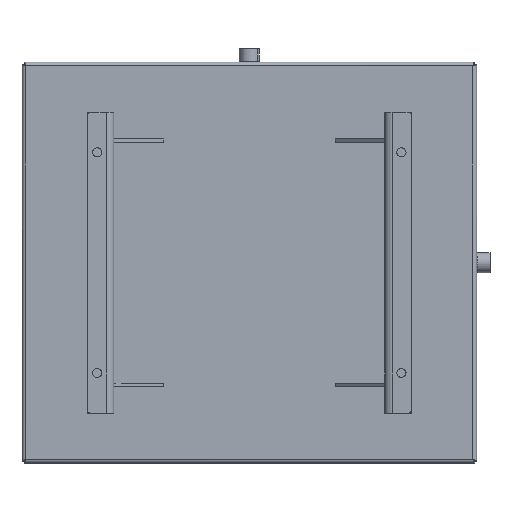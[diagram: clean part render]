
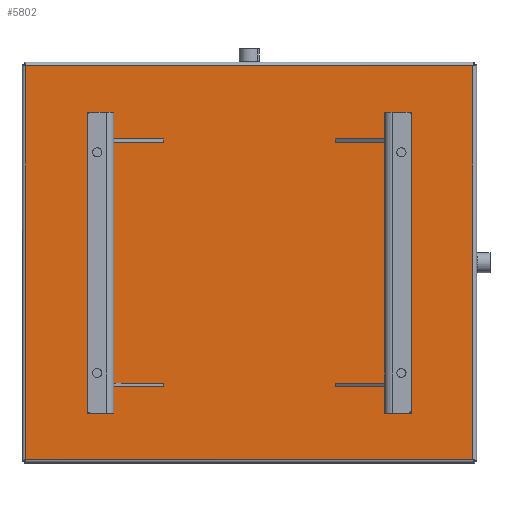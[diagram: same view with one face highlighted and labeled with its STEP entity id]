
A CAD part, front view. The second image highlights one B-rep face of the part: STEP entity #5802.
In plain terms, the highlighted planar face has unit normal (0, -1, 0).
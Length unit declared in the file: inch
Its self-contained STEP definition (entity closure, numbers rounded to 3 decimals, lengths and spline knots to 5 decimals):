
#215 = DIRECTION ( 'NONE',  ( 1., 0., 0. ) ) ;
#435 = CARTESIAN_POINT ( 'NONE',  ( -23.06171, -1.34419, -16.55906 ) ) ;
#709 = ORIENTED_EDGE ( 'NONE', *, *, #4944, .T. ) ;
#902 = VECTOR ( 'NONE', #5098, 39.37008 ) ;
#987 = CARTESIAN_POINT ( 'NONE',  ( 10.50674, -1.34419, 12.88774 ) ) ;
#1306 = FACE_OUTER_BOUND ( 'NONE', #4461, .T. ) ;
#1371 = LINE ( 'NONE', #2903, #3582 ) ;
#1592 = CARTESIAN_POINT ( 'NONE',  ( 10.50674, -1.34419, -16.55906 ) ) ;
#1683 = DIRECTION ( 'NONE',  ( -1., 0., 0. ) ) ;
#1698 = LINE ( 'NONE', #435, #4008 ) ;
#1699 = CARTESIAN_POINT ( 'NONE',  ( 10.62838, -1.34419, 12.88774 ) ) ;
#1746 = DIRECTION ( 'NONE',  ( 0., 0., -1. ) ) ;
#1752 = DIRECTION ( 'NONE',  ( 0., -1., 0. ) ) ;
#1793 = PLANE ( 'NONE',  #2978 ) ;
#1843 = CARTESIAN_POINT ( 'NONE',  ( -23.21666, -1.34419, -16.83566 ) ) ;
#1864 = CARTESIAN_POINT ( 'NONE',  ( -22.94006, -1.34419, -16.55906 ) ) ;
#2025 = LINE ( 'NONE', #5261, #902 ) ;
#2875 = ORIENTED_EDGE ( 'NONE', *, *, #5500, .T. ) ;
#2898 = DIRECTION ( 'NONE',  ( 0., 0., 1. ) ) ;
#2903 = CARTESIAN_POINT ( 'NONE',  ( 10.50674, -1.34419, -16.6807 ) ) ;
#2978 = AXIS2_PLACEMENT_3D ( 'NONE', #1843, #1752, #1746 ) ;
#3582 = VECTOR ( 'NONE', #2898, 39.37008 ) ;
#3997 = ORIENTED_EDGE ( 'NONE', *, *, #5686, .T. ) ;
#4008 = VECTOR ( 'NONE', #215, 39.37008 ) ;
#4174 = VERTEX_POINT ( 'NONE', #987 ) ;
#4461 = EDGE_LOOP ( 'NONE', ( #3997, #709, #2875, #5188 ) ) ;
#4944 = EDGE_CURVE ( 'NONE', #4174, #5496, #5783, .T. ) ;
#5098 = DIRECTION ( 'NONE',  ( 0., 0., -1. ) ) ;
#5188 = ORIENTED_EDGE ( 'NONE', *, *, #5446, .T. ) ;
#5261 = CARTESIAN_POINT ( 'NONE',  ( -22.94006, -1.34419, 13.00938 ) ) ;
#5379 = CARTESIAN_POINT ( 'NONE',  ( -22.94006, -1.34419, 12.88774 ) ) ;
#5446 = EDGE_CURVE ( 'NONE', #5774, #5897, #1698, .T. ) ;
#5496 = VERTEX_POINT ( 'NONE', #5379 ) ;
#5500 = EDGE_CURVE ( 'NONE', #5496, #5774, #2025, .T. ) ;
#5686 = EDGE_CURVE ( 'NONE', #5897, #4174, #1371, .T. ) ;
#5774 = VERTEX_POINT ( 'NONE', #1864 ) ;
#5783 = LINE ( 'NONE', #1699, #6022 ) ;
#5802 = ADVANCED_FACE ( 'NONE', ( #1306 ), #1793, .T. ) ;
#5897 = VERTEX_POINT ( 'NONE', #1592 ) ;
#6022 = VECTOR ( 'NONE', #1683, 39.37008 ) ;
